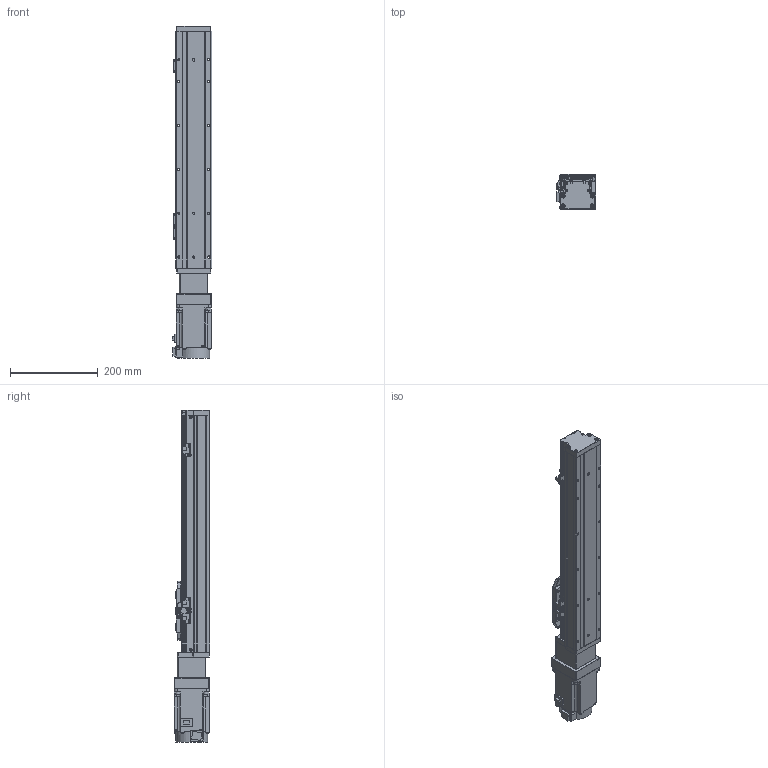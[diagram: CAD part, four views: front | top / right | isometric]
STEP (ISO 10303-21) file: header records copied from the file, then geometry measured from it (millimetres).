
FILE_DESCRIPTION (( 'STEP AP203' ), '1' );
FILE_NAME ('GTH8-350-BC-M75-C4.step', '2023-02-14T02:19:13', ( '微软用户' ), ( '微软中国' ), 'SwSTEP 2.0', 'SolidWorks 2020', '' );
FILE_SCHEMA (( 'CONFIG_CONTROL_DESIGN' ));
Length unit declared in the file: millimetre
Products named in the file (19): GTH80-004; GTH80-028; CTHA86-027; GTH80-006; GTH50-024; hg-kn73j_-s100; GTH80-013; GTH50-023; GTH8-350-BC-M75-C4; GBT 70.3-M3℅6; GBT96.1-2002 3×0.8; GTH80-022; BTH-M3X5X6; GTH80-001_350; GBT 70.1-M3℅6; CTHA86-006-1_CTHA86-006-4; GTH80-003; GBT 70.1-M4×16; CTHA86-013
Assembly tree (60 placements, depth 2):
  GTH8-350-BC-M75-C4
    GTH80-001_350
    GTH80-003
    GTH80-004
    GTH80-006
    GTH80-013
    GBT 70.3-M3℅6  x6
    GTH80-022
    GBT 70.1-M3℅6  x14
    GBT 70.1-M4×16  x8
    GTH80-028  x2
    GTH50-024  x3
    GTH50-023  x3
    GBT96.1-2002 3×0.8  x6
    BTH-M3X5X6  x8
    CTHA86-006-1_CTHA86-006-4
    CTHA86-013
    CTHA86-027
    hg-kn73j_-s100
Bounding box: 89.8 x 81.72 x 757.2 mm (x, y, z)
Volume: 3565495 mm3; surface area: 393399.3 mm2
Topology: 62 solids, 62 shells, 2249 faces, 5174 edges, 3152 vertices
Faces by surface type: plane 1185, cylinder 607, cone 285, torus 162, sphere 8, bspline 2
Entity records: 39341 total; most frequent: CARTESIAN_POINT 6482, DIRECTION 6475, ORIENTED_EDGE 5938, EDGE_CURVE 2969, AXIS2_PLACEMENT_3D 2263, LINE 1949, VECTOR 1949, VERTEX_POINT 1865
